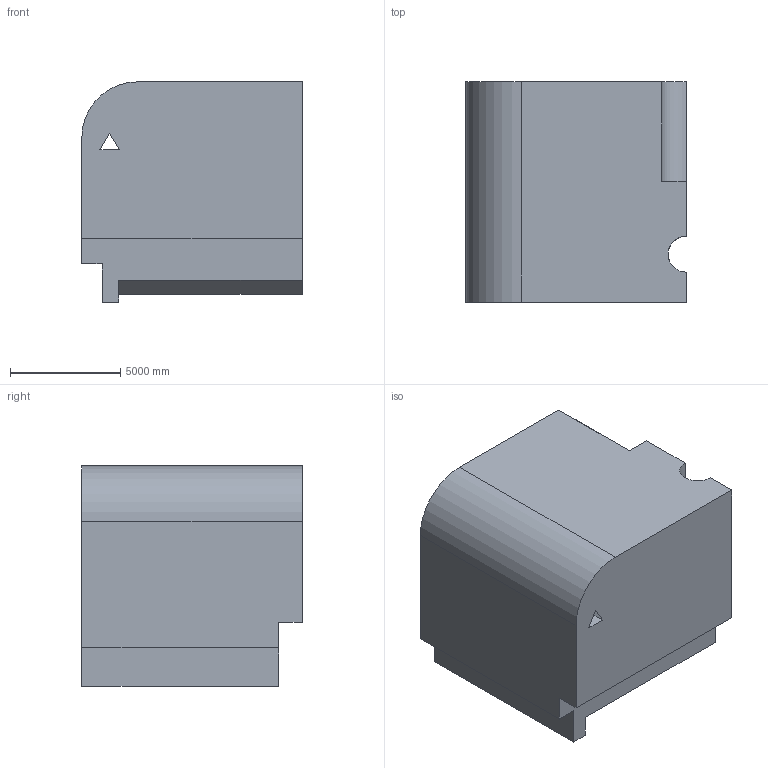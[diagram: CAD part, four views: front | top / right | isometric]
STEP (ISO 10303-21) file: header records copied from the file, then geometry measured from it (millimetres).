
FILE_DESCRIPTION (( 'STEP AP203' ), '1' );
FILE_NAME ('165.STEP', '2022-09-06T13:29:37', ( 'user' ), ( '' ), 'SwSTEP 2.0', 'SolidWorks 2021', '' );
FILE_SCHEMA (( 'CONFIG_CONTROL_DESIGN' ));
Length unit declared in the file: centimetre
Products named in the file (1): 165
Bounding box: 10000 x 10000 x 10000 mm (x, y, z)
Volume: 777468396763 mm3; surface area: 606699839.3 mm2
Topology: 1 solids, 1 shells, 22 faces, 60 edges, 40 vertices
Faces by surface type: plane 18, cylinder 4
Entity records: 771 total; most frequent: CARTESIAN_POINT 129, ORIENTED_EDGE 120, DIRECTION 110, EDGE_CURVE 60, VECTOR 52, LINE 52, VERTEX_POINT 40, AXIS2_PLACEMENT_3D 29
